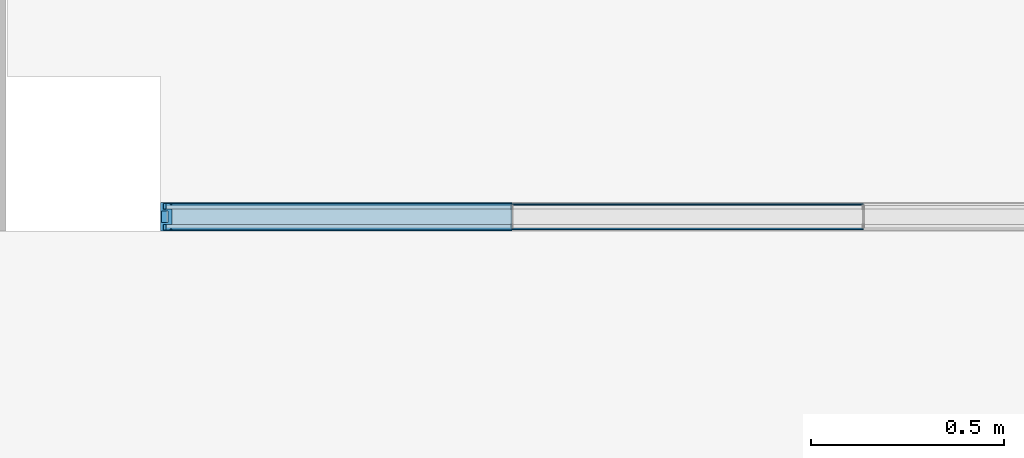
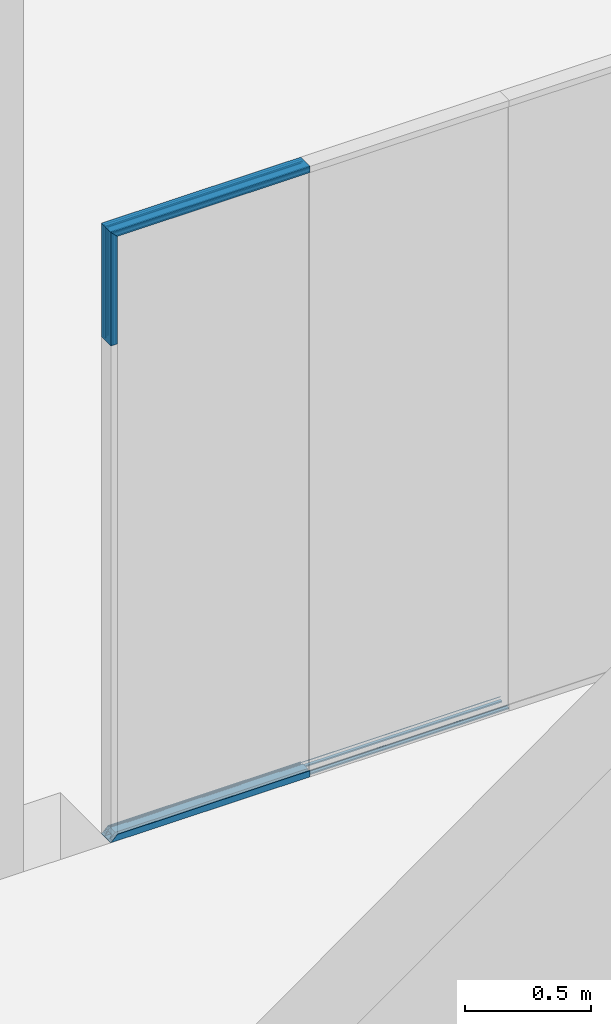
# One storey, part 25 of 62: 7 building element parts, 5 elements without a shape of their own.
"""IFC2X3 building model written with IfcOpenShell, lengths in millimetres."""

from ifc_helpers import new_model, entity, si_unit, converted_unit, derived_unit, money_unit, direction, frame, origin_with_axes, place, context, subcontext, project, spatial, faceted_brep, source, transform, mapped, material, type_object, element, aggregate, save


model = new_model("IFC2X3")

# Units and contexts
model_context = context("Model", 3, precision=0.01, world=origin_with_axes(), true_north=direction((0.0, 1.0)))
body_context = subcontext(model_context, "Body", "Model", "MODEL_VIEW")
ifc_project = project(units=[si_unit("LENGTHUNIT", "METRE", prefix="MILLI"), si_unit("AREAUNIT", "SQUARE_METRE"), si_unit("VOLUMEUNIT", "CUBIC_METRE"), converted_unit("PLANEANGLEUNIT", "DEGREE", entity("IfcPlaneAngleMeasure", 0.0174532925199), si_unit("PLANEANGLEUNIT", "RADIAN"), dimensions=[0, 0, 0, 0, 0, 0, 0]), si_unit("SOLIDANGLEUNIT", "STERADIAN"), money_unit("EUR"), converted_unit("TIMEUNIT", "Year", entity("IfcTimeMeasure", 31556926.0), si_unit("TIMEUNIT", "SECOND"), dimensions=[0, 0, 1, 0, 0, 0, 0]), si_unit("MASSUNIT", "GRAM", prefix="KILO"), si_unit("THERMODYNAMICTEMPERATUREUNIT", "DEGREE_CELSIUS"), si_unit("LUMINOUSINTENSITYUNIT", "LUMEN"), si_unit("ENERGYUNIT", "JOULE", prefix="MEGA"), derived_unit("THERMALCONDUCTANCEUNIT", [(si_unit("POWERUNIT", "WATT"), 1), (si_unit("LENGTHUNIT", "METRE"), -1), (si_unit("THERMODYNAMICTEMPERATUREUNIT", "KELVIN"), -1)]), derived_unit("SPECIFICHEATCAPACITYUNIT", [(si_unit("ENERGYUNIT", "JOULE"), 1), (si_unit("MASSUNIT", "GRAM", prefix="KILO"), -1), (si_unit("THERMODYNAMICTEMPERATUREUNIT", "KELVIN"), -1)]), derived_unit("MASSDENSITYUNIT", [(si_unit("MASSUNIT", "GRAM", prefix="KILO"), 1), (si_unit("VOLUMEUNIT", "CUBIC_METRE"), -1)])], contexts=[model_context])

# Site, building, storey
site_placement = place(None, origin_with_axes())
site = spatial("IfcSite", under=ifc_project, at=site_placement, Name="Puškini 31, Narva", CompositionType="ELEMENT")
building_placement = place(site_placement, origin_with_axes())
building = spatial("IfcBuilding", under=site, at=building_placement, Name="Narva Riigigümnaasium", CompositionType="ELEMENT")
storey_placement = place(building_placement, frame((0.0, 0.0, 660.0), z_axis=(0.0, 0.0, 1.0), x_axis=(1.0, 0.0, 0.0)))
storey = spatial("IfcBuildingStorey", under=building, at=storey_placement, Name="2.korrus +0.66", CompositionType="ELEMENT", Elevation=660.0)

# Curtain wall, members, building element parts
curtain_wall_type = type_object("IfcCurtainWallType", Name="Curtain Wall Type", PredefinedType="NOTDEFINED")
curtain_wall_placement = place(storey_placement, frame((41241.6, 223837.000007, -1.99739158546e-06), z_axis=(0.0, 0.0, 1.0), x_axis=(1.0, 0.0, 0.0)))
curtain_wall = element("IfcCurtainWall", 1, at=curtain_wall_placement, inside=storey, type_object=curtain_wall_type, Name="G-SKLF-53")
member_type = type_object("IfcMemberType", Name="Boundary Frame 30 x 37", PredefinedType="MULLION")
member_1_placement = place(curtain_wall_placement, frame((-2731.2, 0.0, 0.0), z_axis=(1.0, 0.0, 0.0), x_axis=(0.0, 0.0, 1.0)))
member_1 = element("IfcMember", 2, at=member_1_placement, type_object=member_type, Name="G-SKLF-82-raam", ObjectType="MULLION")
ifc_material_1 = material(Name="Klaasvill")
shared_shape_1 = source(origin_with_axes(), body_context, "Body", "Brep", [
    faceted_brep([(-7.49999990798, 20.000000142, 0.0), (-7.49999990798, 20.000000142, 910.4), (-13.8499999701, 20.000000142, 910.4), (-13.8499999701, 20.000000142, 0.0), (-7.49999990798, 34.0161444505, 0.0), (-7.49999990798, 34.0161444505, 910.4), (-13.8499999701, 34.0161444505, 910.4), (-13.8499999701, 34.0161444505, 0.0)], [[[0, 1, 2, 3]], [[4, 5, 1, 0]], [[1, 5, 6, 2]], [[3, 2, 6, 7]], [[0, 3, 7, 4]], [[7, 6, 5, 4]]]),
    faceted_brep([(-24.987414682, 34.0161444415, 0.0), (-24.987414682, 34.0161444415, 910.4), (-25.004489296, 32.0307503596, 910.4), (-25.004489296, 32.0307503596, 0.0), (-28.5126239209, 34.0161444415, 0.0), (-28.5126239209, 34.0161444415, 910.4), (-28.7655837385, 33.0385325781, 910.4), (-28.4955493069, 32.0307503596, 910.4), (-27.75780152, 31.2930025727, 910.4), (-26.7500193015, 31.0229681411, 910.4), (-25.742237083, 31.2930025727, 910.4), (-25.742237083, 31.2930025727, 0.0), (-26.7500193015, 31.0229681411, 0.0), (-27.75780152, 31.2930025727, 0.0), (-28.4955493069, 32.0307503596, 0.0), (-28.7655837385, 33.0385325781, 0.0)], [[[0, 1, 2, 3]], [[4, 5, 1, 0]], [[1, 5, 6, 7, 8, 9, 10, 2]], [[3, 2, 10, 11]], [[0, 3, 11, 12, 13, 14, 15, 4]], [[15, 6, 5, 4]], [[14, 7, 6, 15]], [[13, 8, 7, 14]], [[12, 9, 8, 13]], [[11, 10, 9, 12]]]),
    faceted_brep([(-7.49999990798, -19.9999997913, 0.0), (-7.49999990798, -19.9999997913, 910.4), (-7.49999990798, -34.0161445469, 910.4), (-7.49999990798, -34.0161445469, 0.0), (-13.8499999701, -19.9999997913, 0.0), (-13.8499999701, -19.9999997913, 910.4), (-13.8499999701, -34.0161445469, 910.4), (-13.8499999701, -34.0161445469, 0.0)], [[[0, 1, 2, 3]], [[4, 5, 1, 0]], [[1, 5, 6, 2]], [[3, 2, 6, 7]], [[0, 3, 7, 4]], [[7, 6, 5, 4]]]),
    faceted_brep([(-25.004489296, -32.0307503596, 0.0), (-25.004489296, -32.0307503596, 910.4), (-24.987414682, -34.0161444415, 910.4), (-24.987414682, -34.0161444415, 0.0), (-25.742237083, -31.2930025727, 0.0), (-25.742237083, -31.2930025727, 910.4), (-26.7500193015, -31.0229681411, 910.4), (-27.75780152, -31.2930025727, 910.4), (-28.4955493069, -32.0307503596, 910.4), (-28.7655837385, -33.0385325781, 910.4), (-28.5126239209, -34.0161444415, 910.4), (-28.5126239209, -34.0161444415, 0.0), (-28.7655837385, -33.0385325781, 0.0), (-28.4955493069, -32.0307503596, 0.0), (-27.75780152, -31.2930025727, 0.0), (-26.7500193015, -31.0229681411, 0.0)], [[[0, 1, 2, 3]], [[4, 5, 1, 0]], [[1, 5, 6, 7, 8, 9, 10, 2]], [[3, 2, 10, 11]], [[0, 3, 11, 12, 13, 14, 15, 4]], [[15, 6, 5, 4]], [[14, 7, 6, 15]], [[13, 8, 7, 14]], [[12, 9, 8, 13]], [[11, 10, 9, 12]]]),
])
building_element_part_1_placement = place(member_1_placement, origin_with_axes())
building_element_part_1 = element("IfcBuildingElementPart", 3, at=building_element_part_1_placement, material=ifc_material_1, Name="Klaasvill", context=body_context, shape_type="MappedRepresentation", body=[
    mapped(shared_shape_1, transform((0.0, 0.0, 0.0), x_axis=(-1.0, 0.0, 0.0), y_axis=(0.0, -1.0, 0.0), z_axis=(0.0, 0.0, 1.0))),
])
aggregate(member_1, [building_element_part_1])
member_2_placement = place(curtain_wall_placement, frame((-3641.6, 0.0, 0.0), z_axis=(1.0, 0.0, 0.0), x_axis=(0.0, 0.0, 1.0)))
member_2 = element("IfcMember", 4, at=member_2_placement, type_object=member_type, Name="G-SKLF-81-raam", ObjectType="MULLION")
shared_shape_2 = source(origin_with_axes(), body_context, "Body", "Brep", [
    faceted_brep([(-13.8499999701, 20.000000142, 13.8499999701), (-7.49999990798, 20.000000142, 7.49999990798), (-7.49999990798, 20.000000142, 910.4), (-13.8499999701, 20.000000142, 910.4), (-13.8499999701, 34.0161444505, 13.8499999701), (-7.49999990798, 34.0161444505, 7.49999990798), (-7.49999990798, 34.0161444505, 910.4), (-13.8499999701, 34.0161444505, 910.4)], [[[0, 1, 2, 3]], [[1, 0, 4, 5]], [[1, 5, 6, 2]], [[2, 6, 7, 3]], [[4, 0, 3, 7]], [[5, 4, 7, 6]]]),
    faceted_brep([(-25.004489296, 32.0307503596, 25.004489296), (-24.987414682, 34.0161444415, 24.987414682), (-24.987414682, 34.0161444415, 910.4), (-25.004489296, 32.0307503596, 910.4), (-25.742237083, 31.2930025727, 25.742237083), (-26.7500193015, 31.0229681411, 26.7500193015), (-27.75780152, 31.2930025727, 27.75780152), (-28.4955493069, 32.0307503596, 28.4955493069), (-28.7655837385, 33.0385325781, 28.7655837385), (-28.5126239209, 34.0161444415, 28.5126239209), (-28.5126239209, 34.0161444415, 910.4), (-28.7655837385, 33.0385325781, 910.4), (-28.4955493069, 32.0307503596, 910.4), (-27.75780152, 31.2930025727, 910.4), (-26.7500193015, 31.0229681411, 910.4), (-25.742237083, 31.2930025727, 910.4)], [[[0, 1, 2, 3]], [[1, 0, 4, 5, 6, 7, 8, 9]], [[1, 9, 10, 2]], [[2, 10, 11, 12, 13, 14, 15, 3]], [[4, 0, 3, 15]], [[5, 4, 15, 14]], [[6, 5, 14, 13]], [[7, 6, 13, 12]], [[8, 7, 12, 11]], [[9, 8, 11, 10]]]),
    faceted_brep([(-7.49999990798, -34.0161445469, 7.49999990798), (-7.49999990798, -19.9999997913, 7.49999990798), (-7.49999990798, -19.9999997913, 910.4), (-7.49999990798, -34.0161445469, 910.4), (-13.8499999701, -34.0161445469, 13.8499999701), (-13.8499999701, -19.9999997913, 13.8499999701), (-13.8499999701, -19.9999997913, 910.4), (-13.8499999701, -34.0161445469, 910.4)], [[[0, 1, 2, 3]], [[1, 0, 4, 5]], [[1, 5, 6, 2]], [[2, 6, 7, 3]], [[4, 0, 3, 7]], [[5, 4, 7, 6]]]),
    faceted_brep([(-24.987414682, -34.0161444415, 24.987414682), (-25.004489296, -32.0307503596, 25.004489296), (-25.004489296, -32.0307503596, 910.4), (-24.987414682, -34.0161444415, 910.4), (-28.5126239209, -34.0161444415, 28.5126239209), (-28.7655837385, -33.0385325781, 28.7655837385), (-28.4955493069, -32.0307503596, 28.4955493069), (-27.75780152, -31.2930025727, 27.75780152), (-26.7500193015, -31.0229681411, 26.7500193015), (-25.742237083, -31.2930025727, 25.742237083), (-25.742237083, -31.2930025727, 910.4), (-26.7500193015, -31.0229681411, 910.4), (-27.75780152, -31.2930025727, 910.4), (-28.4955493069, -32.0307503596, 910.4), (-28.7655837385, -33.0385325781, 910.4), (-28.5126239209, -34.0161444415, 910.4)], [[[0, 1, 2, 3]], [[1, 0, 4, 5, 6, 7, 8, 9]], [[1, 9, 10, 2]], [[2, 10, 11, 12, 13, 14, 15, 3]], [[4, 0, 3, 15]], [[5, 4, 15, 14]], [[6, 5, 14, 13]], [[7, 6, 13, 12]], [[8, 7, 12, 11]], [[9, 8, 11, 10]]]),
])
building_element_part_2_placement = place(member_2_placement, origin_with_axes())
building_element_part_2 = element("IfcBuildingElementPart", 5, at=building_element_part_2_placement, material=ifc_material_1, Name="Klaasvill", context=body_context, shape_type="MappedRepresentation", body=[
    mapped(shared_shape_2, transform((0.0, 0.0, 0.0), x_axis=(-1.0, 0.0, 0.0), y_axis=(0.0, -1.0, 0.0), z_axis=(0.0, 0.0, 1.0))),
])
ifc_material_2 = material(Name="Teras RAL7012")
shared_shape_3 = source(origin_with_axes(), body_context, "Body", "Brep", [
    faceted_brep([(-29.5999996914, -17.0000000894, 29.5999996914), (0.0, -17.0000000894, 0.0), (0.0, -17.0000000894, 910.4), (-29.5999996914, -17.0000000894, 910.4), (-29.5999996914, 17.0000000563, 29.5999996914), (0.0, 17.0000000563, 0.0), (-1.9999999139, 15.0000001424, 1.9999999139), (-18.7999996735, 15.0000001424, 18.7999996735), (-18.7999996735, -15.0000001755, 18.7999996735), (-1.9999999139, -15.0000001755, 1.9999999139), (0.0, 17.0000000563, 910.4), (-29.5999996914, 17.0000000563, 910.4), (-1.9999999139, 15.0000001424, 910.4), (-1.9999999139, -15.0000001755, 910.4), (-18.7999996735, -15.0000001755, 910.4), (-18.7999996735, 15.0000001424, 910.4)], [[[0, 1, 2, 3]], [[1, 0, 4, 5], [6, 7, 8, 9]], [[1, 5, 10, 2]], [[2, 10, 11, 3], [12, 13, 14, 15]], [[4, 0, 3, 11]], [[5, 4, 11, 10]], [[7, 6, 12, 15]], [[8, 7, 15, 14]], [[9, 8, 14, 13]], [[6, 9, 13, 12]]]),
    faceted_brep([(-29.5999996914, 17.0000000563, 29.5999996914), (0.0, 17.0, 0.0), (0.0, 17.0, 910.4), (-29.5999996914, 17.0000000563, 910.4), (-30.0000193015, 17.0, 30.0000193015), (-30.0000193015, 20.0, 30.0000193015), (-13.8499999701, 20.000000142, 13.8499999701), (-7.49999999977, 20.0, 7.49999999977), (-7.49999999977, 34.0161444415, 7.49999999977), (-13.8499999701, 34.0161444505, 13.8499999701), (-24.987414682, 34.0161444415, 24.987414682), (-28.5126239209, 34.0161444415, 28.5126239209), (-30.0000193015, 34.0161444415, 30.0000193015), (-30.0000193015, 37.0, 30.0000193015), (0.0, 37.0, 0.0), (0.0, 37.0, 910.4), (-30.0000193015, 37.0, 910.4), (-30.0000193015, 34.0161444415, 910.4), (-28.5126239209, 34.0161444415, 910.4), (-24.987414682, 34.0161444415, 910.4), (-13.8499999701, 34.0161444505, 910.4), (-7.49999999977, 34.0161444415, 910.4), (-7.49999999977, 20.0, 910.4), (-13.8499999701, 20.000000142, 910.4), (-30.0000193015, 20.0, 910.4), (-30.0000193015, 17.0, 910.4)], [[[0, 1, 2, 3]], [[1, 0, 4, 5, 6, 7, 8, 9, 10, 11, 12, 13, 14]], [[1, 14, 15, 2]], [[2, 15, 16, 17, 18, 19, 20, 21, 22, 23, 24, 25, 3]], [[4, 0, 3, 25]], [[5, 4, 25, 24]], [[6, 5, 24, 23]], [[7, 6, 23, 22]], [[8, 7, 22, 21]], [[9, 8, 21, 20]], [[10, 9, 20, 19]], [[11, 10, 19, 18]], [[12, 11, 18, 17]], [[13, 12, 17, 16]], [[14, 13, 16, 15]]]),
    faceted_brep([(0.0, -37.0, 0.0), (0.0, -17.0, 0.0), (0.0, -17.0, 910.4), (0.0, -37.0, 910.4), (-30.0000193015, -37.0, 30.0000193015), (-30.0000193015, -34.0161444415, 30.0000193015), (-28.5126239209, -34.0161444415, 28.5126239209), (-24.987414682, -34.0161444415, 24.987414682), (-13.8499999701, -34.0161445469, 13.8499999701), (-7.49999999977, -34.0161444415, 7.49999999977), (-7.49999999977, -20.0, 7.49999999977), (-13.8499999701, -19.9999997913, 13.8499999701), (-30.0000193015, -20.0, 30.0000193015), (-30.0000193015, -17.0, 30.0000193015), (-29.5999996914, -17.0000000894, 29.5999996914), (-29.5999996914, -17.0000000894, 910.4), (-30.0000193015, -17.0, 910.4), (-30.0000193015, -20.0, 910.4), (-13.8499999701, -19.9999997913, 910.4), (-7.49999999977, -20.0, 910.4), (-7.49999999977, -34.0161444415, 910.4), (-13.8499999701, -34.0161445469, 910.4), (-24.987414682, -34.0161444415, 910.4), (-28.5126239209, -34.0161444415, 910.4), (-30.0000193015, -34.0161444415, 910.4), (-30.0000193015, -37.0, 910.4)], [[[0, 1, 2, 3]], [[1, 0, 4, 5, 6, 7, 8, 9, 10, 11, 12, 13, 14]], [[1, 14, 15, 2]], [[2, 15, 16, 17, 18, 19, 20, 21, 22, 23, 24, 25, 3]], [[4, 0, 3, 25]], [[5, 4, 25, 24]], [[6, 5, 24, 23]], [[7, 6, 23, 22]], [[8, 7, 22, 21]], [[9, 8, 21, 20]], [[10, 9, 20, 19]], [[11, 10, 19, 18]], [[12, 11, 18, 17]], [[13, 12, 17, 16]], [[14, 13, 16, 15]]]),
])
building_element_part_3_placement = place(member_2_placement, origin_with_axes())
building_element_part_3 = element("IfcBuildingElementPart", 6, at=building_element_part_3_placement, material=ifc_material_2, Name="Teras RAL7012", context=body_context, shape_type="MappedRepresentation", body=[
    mapped(shared_shape_3, transform((0.0, 0.0, 0.0), x_axis=(-1.0, 0.0, 0.0), y_axis=(0.0, -1.0, 0.0), z_axis=(0.0, 0.0, 1.0))),
])
aggregate(member_2, [building_element_part_2, building_element_part_3])
member_3_placement = place(curtain_wall_placement, frame((-3641.6, 0.0, 2400.0), z_axis=(0.0, 0.0, 1.0), x_axis=(-1.0, 0.0, 0.0)))
member_3 = element("IfcMember", 7, at=member_3_placement, type_object=member_type, Name="G-SKLF-93-raam", ObjectType="MULLION")
shared_shape_4 = source(origin_with_axes(), body_context, "Body", "Brep", [
    faceted_brep([(7.49999990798, 20.000000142, 0.0), (13.8499999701, 20.000000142, 0.0), (13.8499999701, 20.000000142, 536.15000003), (7.49999990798, 20.000000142, 542.500000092), (7.49999990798, 34.0161444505, 0.0), (13.8499999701, 34.0161444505, 0.0), (13.8499999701, 34.0161444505, 536.15000003), (7.49999990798, 34.0161444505, 542.500000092)], [[[0, 1, 2, 3]], [[0, 4, 5, 1]], [[1, 5, 6, 2]], [[3, 2, 6, 7]], [[4, 0, 3, 7]], [[5, 4, 7, 6]]]),
    faceted_brep([(24.987414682, 34.0161444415, 0.0), (25.004489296, 32.0307503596, 0.0), (25.004489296, 32.0307503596, 524.995510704), (24.987414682, 34.0161444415, 525.012585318), (28.5126239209, 34.0161444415, 0.0), (28.7655837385, 33.0385325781, 0.0), (28.4955493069, 32.0307503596, 0.0), (27.75780152, 31.2930025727, 0.0), (26.7500193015, 31.0229681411, 0.0), (25.742237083, 31.2930025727, 0.0), (25.742237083, 31.2930025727, 524.257762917), (26.7500193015, 31.0229681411, 523.249980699), (27.75780152, 31.2930025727, 522.24219848), (28.4955493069, 32.0307503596, 521.504450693), (28.7655837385, 33.0385325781, 521.234416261), (28.5126239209, 34.0161444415, 521.487376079)], [[[0, 1, 2, 3]], [[0, 4, 5, 6, 7, 8, 9, 1]], [[1, 9, 10, 2]], [[3, 2, 10, 11, 12, 13, 14, 15]], [[4, 0, 3, 15]], [[5, 4, 15, 14]], [[6, 5, 14, 13]], [[7, 6, 13, 12]], [[8, 7, 12, 11]], [[9, 8, 11, 10]]]),
    faceted_brep([(7.49999990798, -19.9999997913, 0.0), (7.49999990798, -34.0161445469, 0.0), (7.49999990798, -34.0161445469, 542.500000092), (7.49999990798, -19.9999997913, 542.500000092), (13.8499999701, -19.9999997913, 0.0), (13.8499999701, -34.0161445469, 0.0), (13.8499999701, -34.0161445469, 536.15000003), (13.8499999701, -19.9999997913, 536.15000003)], [[[0, 1, 2, 3]], [[0, 4, 5, 1]], [[1, 5, 6, 2]], [[3, 2, 6, 7]], [[4, 0, 3, 7]], [[5, 4, 7, 6]]]),
    faceted_brep([(25.004489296, -32.0307503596, 0.0), (24.987414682, -34.0161444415, 0.0), (24.987414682, -34.0161444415, 525.012585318), (25.004489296, -32.0307503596, 524.995510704), (25.742237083, -31.2930025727, 0.0), (26.7500193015, -31.0229681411, 0.0), (27.75780152, -31.2930025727, 0.0), (28.4955493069, -32.0307503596, 0.0), (28.7655837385, -33.0385325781, 0.0), (28.5126239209, -34.0161444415, 0.0), (28.5126239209, -34.0161444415, 521.487376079), (28.7655837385, -33.0385325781, 521.234416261), (28.4955493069, -32.0307503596, 521.504450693), (27.75780152, -31.2930025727, 522.24219848), (26.7500193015, -31.0229681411, 523.249980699), (25.742237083, -31.2930025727, 524.257762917)], [[[0, 1, 2, 3]], [[0, 4, 5, 6, 7, 8, 9, 1]], [[1, 9, 10, 2]], [[3, 2, 10, 11, 12, 13, 14, 15]], [[4, 0, 3, 15]], [[5, 4, 15, 14]], [[6, 5, 14, 13]], [[7, 6, 13, 12]], [[8, 7, 12, 11]], [[9, 8, 11, 10]]]),
])
building_element_part_4_placement = place(member_3_placement, origin_with_axes())
building_element_part_4 = element("IfcBuildingElementPart", 8, at=building_element_part_4_placement, material=ifc_material_1, Name="Klaasvill", context=body_context, shape_type="MappedRepresentation", body=[
    mapped(shared_shape_4, transform((0.0, 0.0, 0.0), x_axis=(-1.0, 0.0, 0.0), y_axis=(0.0, -1.0, 0.0), z_axis=(0.0, 0.0, 1.0))),
])
shared_shape_5 = source(origin_with_axes(), body_context, "Body", "Brep", [
    faceted_brep([(0.0, -17.0000000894, 0.0), (29.5999996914, -17.0000000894, 0.0), (29.5999996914, -17.0000000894, 520.400000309), (0.0, -17.0000000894, 550.0), (0.0, 17.0000000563, 0.0), (29.5999996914, 17.0000000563, 0.0), (1.9999999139, 15.0000001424, 0.0), (1.9999999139, -15.0000001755, 0.0), (18.7999996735, -15.0000001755, 0.0), (18.7999996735, 15.0000001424, 0.0), (29.5999996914, 17.0000000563, 520.400000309), (0.0, 17.0000000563, 550.0), (1.9999999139, 15.0000001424, 548.000000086), (18.7999996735, 15.0000001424, 531.200000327), (18.7999996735, -15.0000001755, 531.200000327), (1.9999999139, -15.0000001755, 548.000000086)], [[[0, 1, 2, 3]], [[0, 4, 5, 1], [6, 7, 8, 9]], [[1, 5, 10, 2]], [[3, 2, 10, 11], [12, 13, 14, 15]], [[4, 0, 3, 11]], [[5, 4, 11, 10]], [[7, 6, 12, 15]], [[8, 7, 15, 14]], [[9, 8, 14, 13]], [[6, 9, 13, 12]]]),
    faceted_brep([(0.0, 17.0, 0.0), (29.5999996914, 17.0000000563, 0.0), (29.5999996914, 17.0000000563, 520.400000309), (0.0, 17.0, 550.0), (0.0, 37.0, 0.0), (30.0000193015, 37.0, 0.0), (30.0000193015, 34.0161444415, 0.0), (28.5126239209, 34.0161444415, 0.0), (24.987414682, 34.0161444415, 0.0), (13.8499999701, 34.0161444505, 0.0), (7.49999999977, 34.0161444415, 0.0), (7.49999999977, 20.0, 0.0), (13.8499999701, 20.000000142, 0.0), (30.0000193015, 20.0, 0.0), (30.0000193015, 17.0, 0.0), (30.0000193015, 17.0, 519.999980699), (30.0000193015, 20.0, 519.999980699), (13.8499999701, 20.000000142, 536.15000003), (7.49999999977, 20.0, 542.5), (7.49999999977, 34.0161444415, 542.5), (13.8499999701, 34.0161444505, 536.15000003), (24.987414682, 34.0161444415, 525.012585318), (28.5126239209, 34.0161444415, 521.487376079), (30.0000193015, 34.0161444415, 519.999980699), (30.0000193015, 37.0, 519.999980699), (0.0, 37.0, 550.0)], [[[0, 1, 2, 3]], [[0, 4, 5, 6, 7, 8, 9, 10, 11, 12, 13, 14, 1]], [[1, 14, 15, 2]], [[3, 2, 15, 16, 17, 18, 19, 20, 21, 22, 23, 24, 25]], [[4, 0, 3, 25]], [[5, 4, 25, 24]], [[6, 5, 24, 23]], [[7, 6, 23, 22]], [[8, 7, 22, 21]], [[9, 8, 21, 20]], [[10, 9, 20, 19]], [[11, 10, 19, 18]], [[12, 11, 18, 17]], [[13, 12, 17, 16]], [[14, 13, 16, 15]]]),
    faceted_brep([(0.0, -17.0, 0.0), (0.0, -37.0, 0.0), (0.0, -37.0, 550.0), (0.0, -17.0, 550.0), (29.5999996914, -17.0000000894, 0.0), (30.0000193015, -17.0, 0.0), (30.0000193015, -20.0, 0.0), (13.8499999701, -19.9999997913, 0.0), (7.49999999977, -20.0, 0.0), (7.49999999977, -34.0161444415, 0.0), (13.8499999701, -34.0161445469, 0.0), (24.987414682, -34.0161444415, 0.0), (28.5126239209, -34.0161444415, 0.0), (30.0000193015, -34.0161444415, 0.0), (30.0000193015, -37.0, 0.0), (30.0000193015, -37.0, 519.999980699), (30.0000193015, -34.0161444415, 519.999980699), (28.5126239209, -34.0161444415, 521.487376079), (24.987414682, -34.0161444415, 525.012585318), (13.8499999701, -34.0161445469, 536.15000003), (7.49999999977, -34.0161444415, 542.5), (7.49999999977, -20.0, 542.5), (13.8499999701, -19.9999997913, 536.15000003), (30.0000193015, -20.0, 519.999980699), (30.0000193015, -17.0, 519.999980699), (29.5999996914, -17.0000000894, 520.400000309)], [[[0, 1, 2, 3]], [[0, 4, 5, 6, 7, 8, 9, 10, 11, 12, 13, 14, 1]], [[1, 14, 15, 2]], [[3, 2, 15, 16, 17, 18, 19, 20, 21, 22, 23, 24, 25]], [[4, 0, 3, 25]], [[5, 4, 25, 24]], [[6, 5, 24, 23]], [[7, 6, 23, 22]], [[8, 7, 22, 21]], [[9, 8, 21, 20]], [[10, 9, 20, 19]], [[11, 10, 19, 18]], [[12, 11, 18, 17]], [[13, 12, 17, 16]], [[14, 13, 16, 15]]]),
])
building_element_part_5_placement = place(member_3_placement, origin_with_axes())
building_element_part_5 = element("IfcBuildingElementPart", 9, at=building_element_part_5_placement, material=ifc_material_2, Name="Teras RAL7012", context=body_context, shape_type="MappedRepresentation", body=[
    mapped(shared_shape_5, transform((0.0, 0.0, 0.0), x_axis=(-1.0, 0.0, 0.0), y_axis=(0.0, -1.0, 0.0), z_axis=(0.0, 0.0, 1.0))),
])
aggregate(member_3, [building_element_part_4, building_element_part_5])
member_4_placement = place(curtain_wall_placement, frame((-2731.2, 0.0, 2949.99999445), z_axis=(-1.0, 0.0, 0.0), x_axis=(0.0, 0.0, -1.0)))
member_4 = element("IfcMember", 10, at=member_4_placement, type_object=member_type, Name="G-SKLF-92-raam", ObjectType="MULLION")
aggregate(curtain_wall, [member_2, member_1, member_3, member_4])
shared_shape_6 = source(origin_with_axes(), body_context, "Body", "Brep", [
    faceted_brep([(-7.49999990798, 20.000000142, 0.0), (-7.49999990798, 20.000000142, 902.900000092), (-13.8499999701, 20.000000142, 896.55000003), (-13.8499999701, 20.000000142, 0.0), (-7.49999990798, 34.0161444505, 0.0), (-7.49999990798, 34.0161444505, 902.900000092), (-13.8499999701, 34.0161444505, 896.55000003), (-13.8499999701, 34.0161444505, 0.0)], [[[0, 1, 2, 3]], [[4, 5, 1, 0]], [[1, 5, 6, 2]], [[3, 2, 6, 7]], [[0, 3, 7, 4]], [[7, 6, 5, 4]]]),
    faceted_brep([(-24.987414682, 34.0161444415, 0.0), (-24.987414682, 34.0161444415, 885.412585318), (-25.004489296, 32.0307503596, 885.395510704), (-25.004489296, 32.0307503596, 0.0), (-28.5126239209, 34.0161444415, 0.0), (-28.5126239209, 34.0161444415, 881.887376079), (-28.7655837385, 33.0385325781, 881.634416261), (-28.4955493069, 32.0307503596, 881.904450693), (-27.75780152, 31.2930025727, 882.64219848), (-26.7500193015, 31.0229681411, 883.649980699), (-25.742237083, 31.2930025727, 884.657762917), (-25.742237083, 31.2930025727, 0.0), (-26.7500193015, 31.0229681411, 0.0), (-27.75780152, 31.2930025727, 0.0), (-28.4955493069, 32.0307503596, 0.0), (-28.7655837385, 33.0385325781, 0.0)], [[[0, 1, 2, 3]], [[4, 5, 1, 0]], [[1, 5, 6, 7, 8, 9, 10, 2]], [[3, 2, 10, 11]], [[0, 3, 11, 12, 13, 14, 15, 4]], [[15, 6, 5, 4]], [[14, 7, 6, 15]], [[13, 8, 7, 14]], [[12, 9, 8, 13]], [[11, 10, 9, 12]]]),
    faceted_brep([(-7.49999990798, -19.9999997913, 0.0), (-7.49999990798, -19.9999997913, 902.900000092), (-7.49999990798, -34.0161445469, 902.900000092), (-7.49999990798, -34.0161445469, 0.0), (-13.8499999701, -19.9999997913, 0.0), (-13.8499999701, -19.9999997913, 896.55000003), (-13.8499999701, -34.0161445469, 896.55000003), (-13.8499999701, -34.0161445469, 0.0)], [[[0, 1, 2, 3]], [[4, 5, 1, 0]], [[1, 5, 6, 2]], [[3, 2, 6, 7]], [[0, 3, 7, 4]], [[7, 6, 5, 4]]]),
    faceted_brep([(-25.004489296, -32.0307503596, 0.0), (-25.004489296, -32.0307503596, 885.395510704), (-24.987414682, -34.0161444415, 885.412585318), (-24.987414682, -34.0161444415, 0.0), (-25.742237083, -31.2930025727, 0.0), (-25.742237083, -31.2930025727, 884.657762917), (-26.7500193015, -31.0229681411, 883.649980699), (-27.75780152, -31.2930025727, 882.64219848), (-28.4955493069, -32.0307503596, 881.904450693), (-28.7655837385, -33.0385325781, 881.634416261), (-28.5126239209, -34.0161444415, 881.887376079), (-28.5126239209, -34.0161444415, 0.0), (-28.7655837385, -33.0385325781, 0.0), (-28.4955493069, -32.0307503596, 0.0), (-27.75780152, -31.2930025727, 0.0), (-26.7500193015, -31.0229681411, 0.0)], [[[0, 1, 2, 3]], [[4, 5, 1, 0]], [[1, 5, 6, 7, 8, 9, 10, 2]], [[3, 2, 10, 11]], [[0, 3, 11, 12, 13, 14, 15, 4]], [[15, 6, 5, 4]], [[14, 7, 6, 15]], [[13, 8, 7, 14]], [[12, 9, 8, 13]], [[11, 10, 9, 12]]]),
])
building_element_part_6_placement = place(member_4_placement, origin_with_axes())
building_element_part_6 = element("IfcBuildingElementPart", 11, at=building_element_part_6_placement, material=ifc_material_1, Name="Klaasvill", context=body_context, shape_type="MappedRepresentation", body=[
    mapped(shared_shape_6, transform((0.0, 0.0, 0.0), x_axis=(-1.0, 0.0, 0.0), y_axis=(0.0, -1.0, 0.0), z_axis=(0.0, 0.0, 1.0))),
])
shared_shape_7 = source(origin_with_axes(), body_context, "Body", "Brep", [
    faceted_brep([(0.0, -17.0000000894, 0.0), (0.0, -17.0000000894, 910.4), (-29.5999996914, -17.0000000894, 880.800000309), (-29.5999996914, -17.0000000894, 0.0), (0.0, 17.0000000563, 0.0), (0.0, 17.0000000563, 910.4), (-29.5999996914, 17.0000000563, 880.800000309), (-1.9999999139, 15.0000001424, 908.400000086), (-1.9999999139, -15.0000001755, 908.400000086), (-18.7999996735, -15.0000001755, 891.600000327), (-18.7999996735, 15.0000001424, 891.600000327), (-29.5999996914, 17.0000000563, 0.0), (-1.9999999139, 15.0000001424, 0.0), (-18.7999996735, 15.0000001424, 0.0), (-18.7999996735, -15.0000001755, 0.0), (-1.9999999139, -15.0000001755, 0.0)], [[[0, 1, 2, 3]], [[4, 5, 1, 0]], [[1, 5, 6, 2], [7, 8, 9, 10]], [[3, 2, 6, 11]], [[0, 3, 11, 4], [12, 13, 14, 15]], [[11, 6, 5, 4]], [[15, 8, 7, 12]], [[14, 9, 8, 15]], [[13, 10, 9, 14]], [[12, 7, 10, 13]]]),
    faceted_brep([(0.0, 17.0, 0.0), (0.0, 17.0, 910.4), (-29.5999996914, 17.0000000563, 880.800000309), (-29.5999996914, 17.0000000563, 0.0), (0.0, 37.0, 0.0), (0.0, 37.0, 910.4), (-30.0000193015, 37.0, 880.399980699), (-30.0000193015, 34.0161444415, 880.399980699), (-28.5126239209, 34.0161444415, 881.887376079), (-24.987414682, 34.0161444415, 885.412585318), (-13.8499999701, 34.0161444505, 896.55000003), (-7.49999999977, 34.0161444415, 902.9), (-7.49999999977, 20.0, 902.9), (-13.8499999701, 20.000000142, 896.55000003), (-30.0000193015, 20.0, 880.399980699), (-30.0000193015, 17.0, 880.399980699), (-30.0000193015, 17.0, 0.0), (-30.0000193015, 20.0, 0.0), (-13.8499999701, 20.000000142, 0.0), (-7.49999999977, 20.0, 0.0), (-7.49999999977, 34.0161444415, 0.0), (-13.8499999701, 34.0161444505, 0.0), (-24.987414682, 34.0161444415, 0.0), (-28.5126239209, 34.0161444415, 0.0), (-30.0000193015, 34.0161444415, 0.0), (-30.0000193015, 37.0, 0.0)], [[[0, 1, 2, 3]], [[4, 5, 1, 0]], [[1, 5, 6, 7, 8, 9, 10, 11, 12, 13, 14, 15, 2]], [[3, 2, 15, 16]], [[0, 3, 16, 17, 18, 19, 20, 21, 22, 23, 24, 25, 4]], [[25, 6, 5, 4]], [[24, 7, 6, 25]], [[23, 8, 7, 24]], [[22, 9, 8, 23]], [[21, 10, 9, 22]], [[20, 11, 10, 21]], [[19, 12, 11, 20]], [[18, 13, 12, 19]], [[17, 14, 13, 18]], [[16, 15, 14, 17]]]),
    faceted_brep([(0.0, -17.0, 0.0), (0.0, -17.0, 910.4), (0.0, -37.0, 910.4), (0.0, -37.0, 0.0), (-29.5999996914, -17.0000000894, 0.0), (-29.5999996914, -17.0000000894, 880.800000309), (-30.0000193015, -17.0, 880.399980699), (-30.0000193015, -20.0, 880.399980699), (-13.8499999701, -19.9999997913, 896.55000003), (-7.49999999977, -20.0, 902.9), (-7.49999999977, -34.0161444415, 902.9), (-13.8499999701, -34.0161445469, 896.55000003), (-24.987414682, -34.0161444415, 885.412585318), (-28.5126239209, -34.0161444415, 881.887376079), (-30.0000193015, -34.0161444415, 880.399980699), (-30.0000193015, -37.0, 880.399980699), (-30.0000193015, -37.0, 0.0), (-30.0000193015, -34.0161444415, 0.0), (-28.5126239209, -34.0161444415, 0.0), (-24.987414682, -34.0161444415, 0.0), (-13.8499999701, -34.0161445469, 0.0), (-7.49999999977, -34.0161444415, 0.0), (-7.49999999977, -20.0, 0.0), (-13.8499999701, -19.9999997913, 0.0), (-30.0000193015, -20.0, 0.0), (-30.0000193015, -17.0, 0.0)], [[[0, 1, 2, 3]], [[4, 5, 1, 0]], [[1, 5, 6, 7, 8, 9, 10, 11, 12, 13, 14, 15, 2]], [[3, 2, 15, 16]], [[0, 3, 16, 17, 18, 19, 20, 21, 22, 23, 24, 25, 4]], [[25, 6, 5, 4]], [[24, 7, 6, 25]], [[23, 8, 7, 24]], [[22, 9, 8, 23]], [[21, 10, 9, 22]], [[20, 11, 10, 21]], [[19, 12, 11, 20]], [[18, 13, 12, 19]], [[17, 14, 13, 18]], [[16, 15, 14, 17]]]),
])
building_element_part_7_placement = place(member_4_placement, origin_with_axes())
building_element_part_7 = element("IfcBuildingElementPart", 12, at=building_element_part_7_placement, material=ifc_material_2, Name="Teras RAL7012", context=body_context, shape_type="MappedRepresentation", body=[
    mapped(shared_shape_7, transform((0.0, 0.0, 0.0), x_axis=(-1.0, 0.0, 0.0), y_axis=(0.0, -1.0, 0.0), z_axis=(0.0, 0.0, 1.0))),
])
aggregate(member_4, [building_element_part_6, building_element_part_7])

save(model, "model.ifc")
